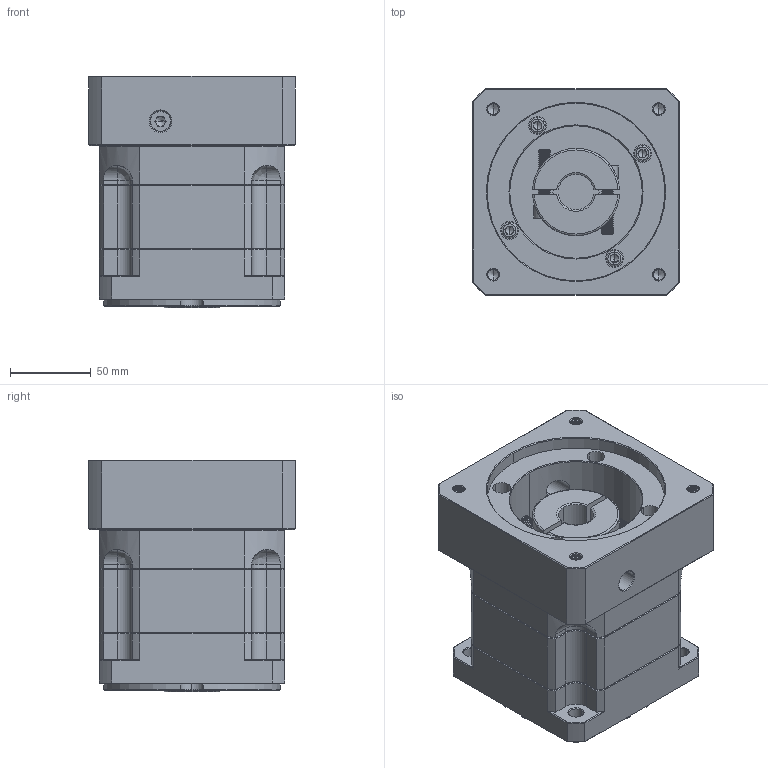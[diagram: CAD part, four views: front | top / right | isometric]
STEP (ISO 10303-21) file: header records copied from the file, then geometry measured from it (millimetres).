
FILE_DESCRIPTION (( 'STEP AP214' ), '1' );
FILE_NAME ('ZB115A-K25-L1-P2-22-110-145-M8.step', '2023-08-26T06:35:20', ( '' ), ( '' ), 'SwSTEP 2.0', 'SolidWorks 2016', '' );
FILE_SCHEMA (( 'AUTOMOTIVE_DESIGN' ));
Length unit declared in the file: millimetre
Products named in the file (1): ZB115A-K25-L1-P2-22-110-145-M8
Bounding box: 128 x 128 x 143.5 mm (x, y, z)
Volume: 1568637.3 mm3; surface area: 175864.8 mm2
Topology: 6 solids, 6 shells, 2336 faces, 6136 edges, 3899 vertices
Faces by surface type: plane 1136, bspline 414, cylinder 406, cone 360, torus 20
Entity records: 123632 total; most frequent: CARTESIAN_POINT 43700, ORIENTED_EDGE 12208, DIRECTION 9698, EDGE_CURVE 6104, VECTOR 3942, LINE 3942, VERTEX_POINT 3899, AXIS2_PLACEMENT_3D 2878
